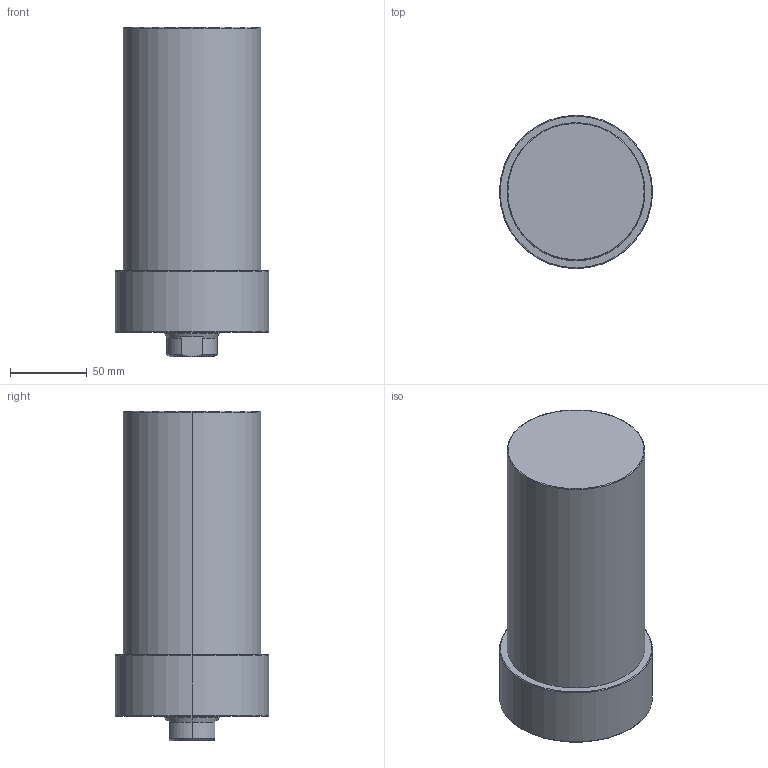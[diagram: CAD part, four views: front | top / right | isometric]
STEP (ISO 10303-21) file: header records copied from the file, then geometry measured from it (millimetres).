
FILE_DESCRIPTION (( 'STEP AP203' ), '1' );
FILE_NAME ('CLLU-090GA-110.STEP', '2020-01-13T03:41:35', ( '' ), ( '' ), 'SwSTEP 2.0', 'SolidWorks 2015', '' );
FILE_SCHEMA (( 'CONFIG_CONTROL_DESIGN' ));
Length unit declared in the file: millimetre
Products named in the file (1): CLLU-090GA-110
Bounding box: 100 x 100 x 215 mm (x, y, z)
Volume: 1319411.5 mm3; surface area: 80433.2 mm2
Topology: 1 solids, 1 shells, 64 faces, 143 edges, 80 vertices
Faces by surface type: cone 25, cylinder 23, plane 10, torus 6
Entity records: 1809 total; most frequent: DIRECTION 330, CARTESIAN_POINT 322, ORIENTED_EDGE 266, AXIS2_PLACEMENT_3D 140, EDGE_CURVE 133, VERTEX_POINT 80, CIRCLE 75, EDGE_LOOP 73
